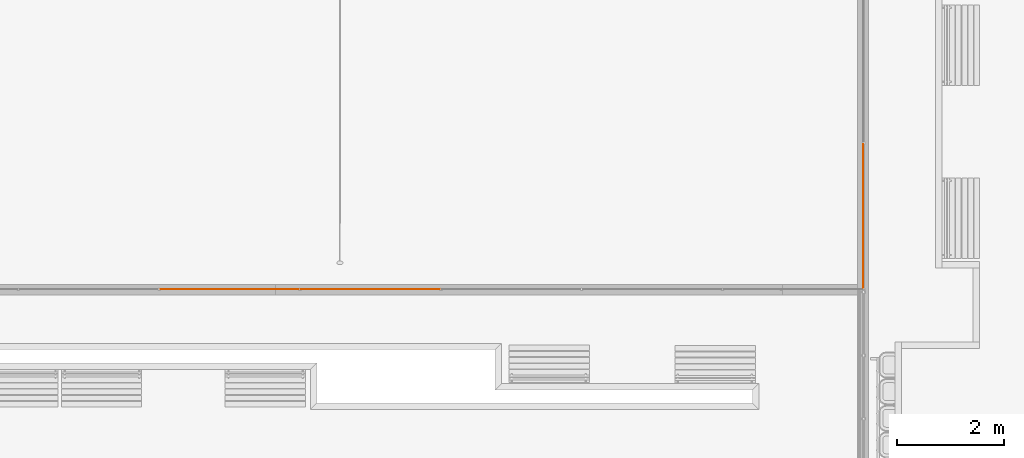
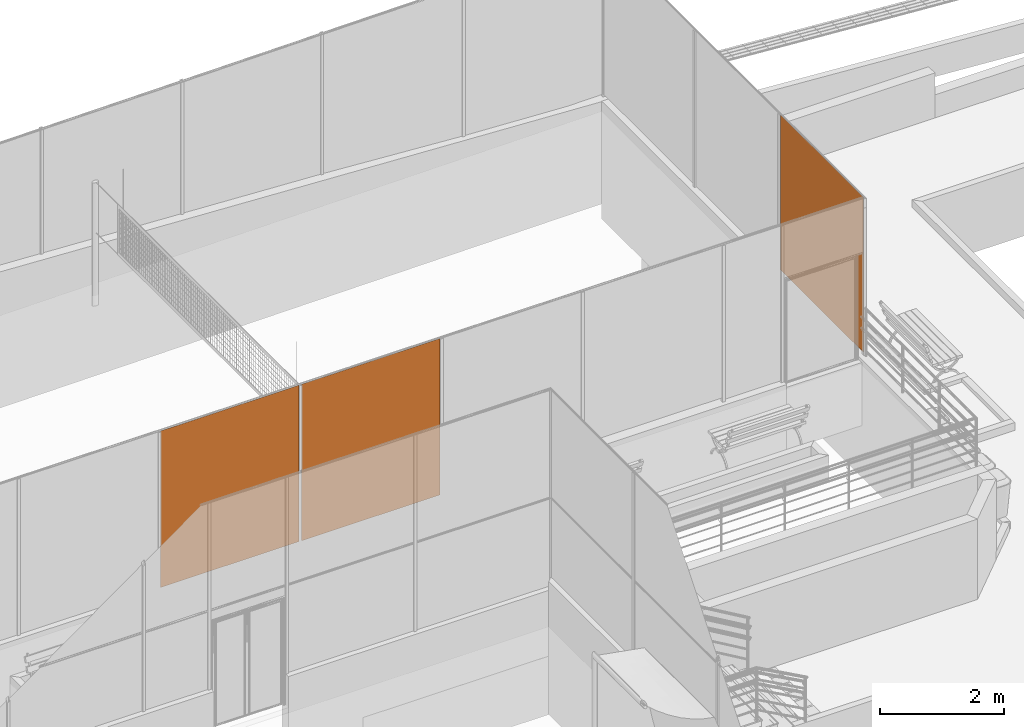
# One storey, part 156 of 237: 3 proxies.
"""IFC2X3 building model written with IfcOpenShell, lengths in millimetres."""

from ifc_helpers import new_model, entity, si_unit, converted_unit, derived_unit, money_unit, direction, frame, origin_with_axes, place, context, subcontext, project, spatial, open_shell, surface_model, source, transform, mapped, type_object, element, save


model = new_model("IFC2X3")

# Units and contexts
model_context = context("Model", 3, precision=0.01, world=origin_with_axes(), true_north=direction((0.0, 1.0)))
body_context = subcontext(model_context, "Body", "Model", "MODEL_VIEW")
ifc_project = project(units=[si_unit("LENGTHUNIT", "METRE", prefix="MILLI"), si_unit("AREAUNIT", "SQUARE_METRE"), si_unit("VOLUMEUNIT", "CUBIC_METRE"), converted_unit("PLANEANGLEUNIT", "DEGREE", entity("IfcPlaneAngleMeasure", 0.0174532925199), si_unit("PLANEANGLEUNIT", "RADIAN"), dimensions=[0, 0, 0, 0, 0, 0, 0]), money_unit("USD"), converted_unit("TIMEUNIT", "Year", entity("IfcTimeMeasure", 31556926.0), si_unit("TIMEUNIT", "SECOND"), dimensions=[0, 0, 1, 0, 0, 0, 0]), si_unit("MASSUNIT", "GRAM", prefix="KILO"), si_unit("THERMODYNAMICTEMPERATUREUNIT", "DEGREE_CELSIUS"), si_unit("LUMINOUSINTENSITYUNIT", "LUMEN"), si_unit("ENERGYUNIT", "JOULE", prefix="MEGA"), derived_unit("THERMALCONDUCTANCEUNIT", [(si_unit("POWERUNIT", "WATT"), 1), (si_unit("LENGTHUNIT", "METRE"), -1), (si_unit("THERMODYNAMICTEMPERATUREUNIT", "KELVIN"), -1)]), derived_unit("SPECIFICHEATCAPACITYUNIT", [(si_unit("ENERGYUNIT", "JOULE"), 1), (si_unit("MASSUNIT", "GRAM", prefix="KILO"), -1), (si_unit("THERMODYNAMICTEMPERATUREUNIT", "KELVIN"), -1)]), derived_unit("MASSDENSITYUNIT", [(si_unit("MASSUNIT", "GRAM", prefix="KILO"), 1), (si_unit("VOLUMEUNIT", "CUBIC_METRE"), -1)])], contexts=[model_context])

# Site, building, storey
site_placement = place(None, origin_with_axes())
site = spatial("IfcSite", under=ifc_project, at=site_placement, Name="Local", CompositionType="ELEMENT")
building_placement = place(site_placement, origin_with_axes())
building = spatial("IfcBuilding", under=site, at=building_placement, Name="Construção", CompositionType="ELEMENT")
storey_placement = place(building_placement, origin_with_axes())
storey = spatial("IfcBuildingStorey", under=building, at=storey_placement, Name="Pavimento Térreo", CompositionType="ELEMENT", Elevation=0.0)

# Proxies
building_element_proxy_type = type_object("IfcBuildingElementProxyType", Name="Tela metalica1", PredefinedType="NOTDEFINED")
shared_shape_1 = source(origin_with_axes(), body_context, "Body", "SurfaceModel", [
    surface_model("IfcShellBasedSurfaceModel", [(2612.77479528, 0.0, 3061.09168656), (0.0, 597.005968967, 3061.09168656), (0.0, 597.005968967, 0.0), (2612.77479528, 0.0, 0.0)], [open_shell([[[0, 1, 2, 3]]])]),
])
proxy_placement = place(storey_placement, frame((87252.2916867, 27460.1139458, -3388.30219833), z_axis=(0.0, 0.0, 1.0), x_axis=(-0.222753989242, 0.974874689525, 0.0)))
element("IfcBuildingElementProxy", 1, at=proxy_placement, inside=storey, type_object=building_element_proxy_type, Name="Objeto-0044", context=body_context, shape_type="MappedRepresentation", body=[
    mapped(shared_shape_1, transform((0.0, 0.0, 0.0))),
])
shared_shape_2 = source(origin_with_axes(), body_context, "Body", "SurfaceModel", [
    surface_model("IfcShellBasedSurfaceModel", [(2513.98604708, 0.0, 3085.24752277), (0.0, 574.433234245, 3085.24752277), (0.0, 574.433234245, 0.0), (2513.98604708, 0.0, 0.0)], [open_shell([[[0, 1, 2, 3]]])]),
])
for number, where, z_axis, x_axis, name in (
    (2, (76308.1283261, 26739.0884267, -3412.65129315), (0.0, 0.0, 1.0), (0.974874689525, 0.222753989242, 0.0), "Objeto-0044"),
    (3, (73679.3496645, 26739.0884267, -3412.65129315), (0.0, 0.0, 1.0), (0.974874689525, 0.222753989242, 0.0), "Objeto-0044"),
):
    element("IfcBuildingElementProxy", number, at=place(storey_placement, frame(where, z_axis=z_axis, x_axis=x_axis)), inside=storey, type_object=building_element_proxy_type, Name=name, context=body_context, shape_type="MappedRepresentation", body=[
        mapped(shared_shape_2, transform((0.0, 0.0, 0.0))),
    ])

save(model, "model.ifc")
